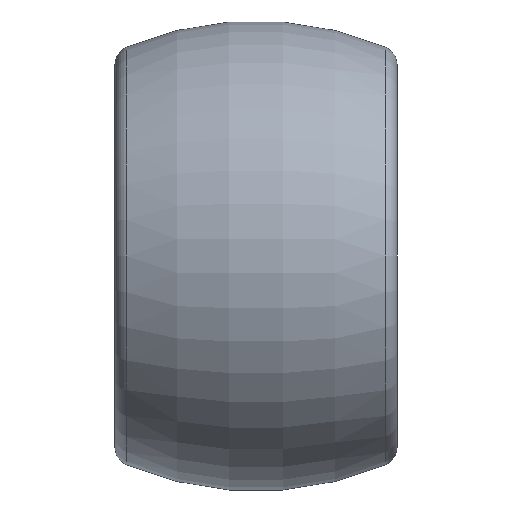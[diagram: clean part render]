
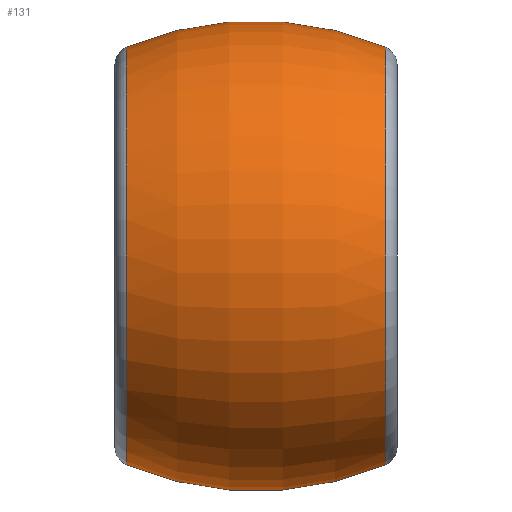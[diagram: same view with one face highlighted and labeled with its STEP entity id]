
A CAD part, front view. The second image highlights one B-rep face of the part: STEP entity #131.
In plain terms, the highlighted toroidal (fillet/blend) face has major radius 15.5 mm and minor radius 53 mm.
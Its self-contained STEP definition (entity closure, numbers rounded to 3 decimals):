
#77 = AXIS2_PLACEMENT_3D ( 'NONE', #602, #1029, #952 ) ;
#79 = ORIENTED_EDGE ( 'NONE', *, *, #358, .T. ) ;
#104 = CIRCLE ( 'NONE', #958, 33.303 ) ;
#112 = VERTEX_POINT ( 'NONE', #231 ) ;
#131 = ADVANCED_FACE ( 'NONE', ( #241 ), #969, .T. ) ;
#189 = AXIS2_PLACEMENT_3D ( 'NONE', #1066, #452, #987 ) ;
#221 = VERTEX_POINT ( 'NONE', #460 ) ;
#231 = CARTESIAN_POINT ( 'NONE',  ( 20.67, 0., -33.303 ) ) ;
#237 = DIRECTION ( 'NONE',  ( -1., 0., 0. ) ) ;
#241 = FACE_OUTER_BOUND ( 'NONE', #397, .T. ) ;
#268 = DIRECTION ( 'NONE',  ( -1., 0., 0. ) ) ;
#358 = EDGE_CURVE ( 'NONE', #554, #221, #542, .T. ) ;
#378 = ORIENTED_EDGE ( 'NONE', *, *, #633, .T. ) ;
#397 = EDGE_LOOP ( 'NONE', ( #582, #378, #79, #439 ) ) ;
#439 = ORIENTED_EDGE ( 'NONE', *, *, #1141, .F. ) ;
#452 = DIRECTION ( 'NONE',  ( 0., 1., 0. ) ) ;
#460 = CARTESIAN_POINT ( 'NONE',  ( -20.67, 0., 33.303 ) ) ;
#536 = CARTESIAN_POINT ( 'NONE',  ( -20.67, 0., 0. ) ) ;
#542 = CIRCLE ( 'NONE', #689, 53. ) ;
#554 = VERTEX_POINT ( 'NONE', #619 ) ;
#582 = ORIENTED_EDGE ( 'NONE', *, *, #585, .F. ) ;
#585 = EDGE_CURVE ( 'NONE', #112, #1160, #982, .T. ) ;
#597 = CIRCLE ( 'NONE', #817, 33.303 ) ;
#602 = CARTESIAN_POINT ( 'NONE',  ( 0., 0., 0. ) ) ;
#619 = CARTESIAN_POINT ( 'NONE',  ( 20.67, 0., 33.303 ) ) ;
#633 = EDGE_CURVE ( 'NONE', #112, #554, #597, .T. ) ;
#650 = DIRECTION ( 'NONE',  ( 0., -1., 0. ) ) ;
#689 = AXIS2_PLACEMENT_3D ( 'NONE', #910, #650, #735 ) ;
#725 = CARTESIAN_POINT ( 'NONE',  ( -20.67, 0., -33.303 ) ) ;
#735 = DIRECTION ( 'NONE',  ( 0., 0., -1. ) ) ;
#817 = AXIS2_PLACEMENT_3D ( 'NONE', #885, #268, #975 ) ;
#885 = CARTESIAN_POINT ( 'NONE',  ( 20.67, 0., 0. ) ) ;
#910 = CARTESIAN_POINT ( 'NONE',  ( 0., 0., -15.5 ) ) ;
#952 = DIRECTION ( 'NONE',  ( 0., 0., 1. ) ) ;
#958 = AXIS2_PLACEMENT_3D ( 'NONE', #536, #237, #1053 ) ;
#969 = TOROIDAL_SURFACE ( 'NONE', #77, -15.5, 53. ) ;
#975 = DIRECTION ( 'NONE',  ( 0., 0., 1. ) ) ;
#982 = CIRCLE ( 'NONE', #189, 53. ) ;
#987 = DIRECTION ( 'NONE',  ( 0., 0., 1. ) ) ;
#1029 = DIRECTION ( 'NONE',  ( -1., 0., 0. ) ) ;
#1053 = DIRECTION ( 'NONE',  ( 0., 0., 1. ) ) ;
#1066 = CARTESIAN_POINT ( 'NONE',  ( 0., 0., 15.5 ) ) ;
#1141 = EDGE_CURVE ( 'NONE', #1160, #221, #104, .T. ) ;
#1160 = VERTEX_POINT ( 'NONE', #725 ) ;
